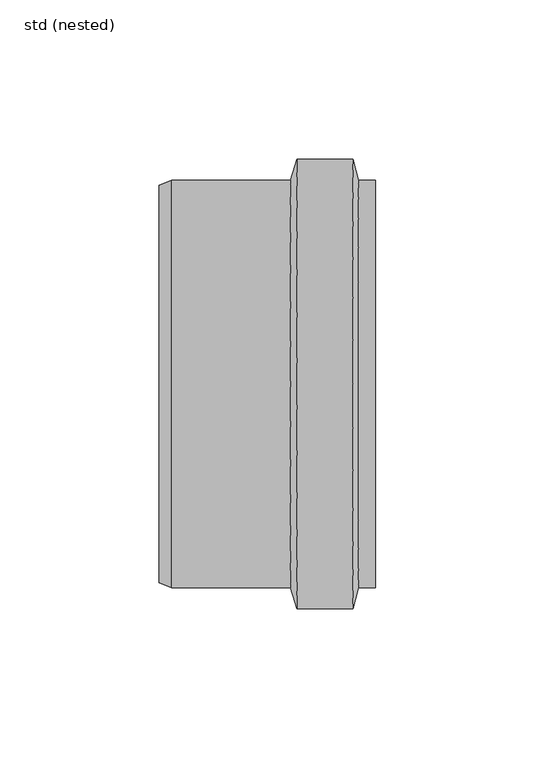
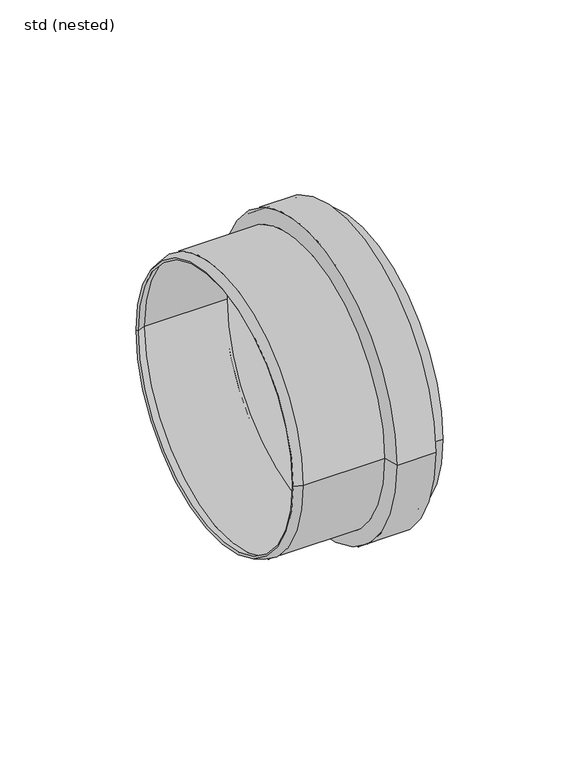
"""IFC4 building model written with IfcOpenShell, lengths in millimetres: pipe fitting geometry, ZZZ_do not use_PIF_ST_UN_ACO pipe socket_ACO : std (nested)."""

import ifcopenshell
import ifcopenshell.guid

model = None  # the IFC model being written
_history = None  # IfcOwnerHistory: only IFC2X3 demands one
_inside = {}  # id of a spatial element -> (the spatial element, [elements in it])
_under = {}  # id of a project, library or spatial element -> (it, [spatial elements below it])
_declared = {}  # id of a project -> (the project, [libraries it declares])
_typed = {}  # id of a type object -> (the type object, [elements of that type])
_made_of = {}  # id of a material, layer set ... -> (it, [elements and type objects made of it])


def new_model(schema):
    """Start an empty IFC model of exactly this schema.

    Asked for "IFC4X3", IfcOpenShell would pick the latest addendum, in which some entities
    have other attributes; the version numbers below select the first issue.
    IFC2X3 requires an IfcOwnerHistory on every rooted entity: one is made here for all.
    """
    global model, _history
    if schema == "IFC4X3":
        model = ifcopenshell.file(schema_version=(4, 3, 0, 0))
    else:
        model = ifcopenshell.file(schema=schema)
    _inside.clear()
    _under.clear()
    _declared.clear()
    _typed.clear()
    _made_of.clear()
    _history = None
    if model.schema == "IFC2X3":
        org = make("IfcOrganization", Name="unknown")
        user = make(
            "IfcPersonAndOrganization",
            ThePerson=make("IfcPerson", FamilyName="unknown"),
            TheOrganization=org,
        )
        app = make(
            "IfcApplication",
            ApplicationDeveloper=org,
            Version="unknown",
            ApplicationFullName="unknown",
            ApplicationIdentifier="unknown",
        )
        _history = make(
            "IfcOwnerHistory",
            OwningUser=user,
            OwningApplication=app,
            ChangeAction="ADDED",
            CreationDate=0,
        )
    return model


def make(cls, **values):
    """One entity of the class cls with the attributes given. An attribute that is None is left unset."""
    return model.create_entity(
        cls, **{name: value for name, value in values.items() if value is not None}
    )


def rooted(cls, **values):
    """An entity with a GlobalId (a new one), such as an element, a storey or a relation."""
    return make(cls, GlobalId=ifcopenshell.guid.new(), OwnerHistory=_history, **values)


def si_unit(unit_type, name, prefix=None):
    """IfcSIUnit, for example si_unit("LENGTHUNIT", "METRE", prefix="MILLI")."""
    return make("IfcSIUnit", UnitType=unit_type, Prefix=prefix, Name=name)


def assignment(units):
    """IfcUnitAssignment: the units of a project."""
    return None if units is None else make("IfcUnitAssignment", Units=units)


def point(xyz):
    """IfcCartesianPoint."""
    return None if xyz is None else make("IfcCartesianPoint", Coordinates=xyz)


def direction(xyz):
    """IfcDirection."""
    return None if xyz is None else make("IfcDirection", DirectionRatios=xyz)


def frame(location, z_axis=None, x_axis=None):
    """IfcAxis2Placement3D, a coordinate frame: its origin and axes. An axis left out is left unset."""
    return make(
        "IfcAxis2Placement3D",
        Location=point(location),
        Axis=direction(z_axis),
        RefDirection=direction(x_axis),
    )


def origin():
    """The frame at (0, 0, 0) with its axes left unset."""
    return frame((0.0, 0.0, 0.0))


def place(relative_to, where):
    """IfcLocalPlacement: puts the frame where relative to a parent placement (None: the world)."""
    return make(
        "IfcLocalPlacement", PlacementRelTo=relative_to, RelativePlacement=where
    )


def context(
    kind, dimensions, precision=None, world=None, true_north=None, identifier=None
):
    """IfcGeometricRepresentationContext, for example the 3D "Model" context."""
    return make(
        "IfcGeometricRepresentationContext",
        ContextIdentifier=identifier,
        ContextType=kind,
        CoordinateSpaceDimension=dimensions,
        Precision=precision,
        WorldCoordinateSystem=world,
        TrueNorth=true_north,
    )


def project(units=None, contexts=None):
    """IfcProject with its units and contexts."""
    return rooted(
        "IfcProject",
        Name="project",
        RepresentationContexts=contexts,
        UnitsInContext=assignment(units),
    )


def spatial(cls, under=None, at=None, **own):
    """A site, building, storey or space (cls), placed at a placement, below another one or the project."""
    s = rooted(cls, ObjectPlacement=at, **own)
    if under is not None:
        _under.setdefault(under.id(), (under, []))[1].append(s)
    return s


def polyline(points):
    """IfcPolyline through the points."""
    return make("IfcPolyline", Points=[point(p) for p in points])


def circle_curve(where, radius):
    """IfcCircle in the frame where."""
    return make("IfcCircle", Position=where, Radius=radius)


def shape(context_of_items, identifier, shape_type, items):
    """IfcShapeRepresentation: the items that make up one representation, for example the "Body"."""
    return make(
        "IfcShapeRepresentation",
        ContextOfItems=context_of_items,
        RepresentationIdentifier=identifier,
        RepresentationType=shape_type,
        Items=items,
    )


def source(mapping_origin, context_of_items, identifier, shape_type, items):
    """IfcRepresentationMap: a shape defined once, which mapped items show again and again."""
    return make(
        "IfcRepresentationMap",
        MappingOrigin=mapping_origin,
        MappedRepresentation=shape(context_of_items, identifier, shape_type, items),
    )


def transform(
    local_origin,
    x_axis=None,
    y_axis=None,
    z_axis=None,
    scale=None,
    scale2=None,
    scale3=None,
    uniform=True,
):
    """IfcCartesianTransformationOperator3D, or its non-uniform kind. x_axis, y_axis, z_axis: its Axis1, 2, 3."""
    if uniform:
        return make(
            "IfcCartesianTransformationOperator3D",
            Axis1=direction(x_axis),
            Axis2=direction(y_axis),
            LocalOrigin=point(local_origin),
            Scale=scale,
            Axis3=direction(z_axis),
        )
    return make(
        "IfcCartesianTransformationOperator3DnonUniform",
        Axis1=direction(x_axis),
        Axis2=direction(y_axis),
        LocalOrigin=point(local_origin),
        Scale=scale,
        Axis3=direction(z_axis),
        Scale2=scale2,
        Scale3=scale3,
    )


def mapped(mapping_source, mapping_target):
    """IfcMappedItem: shows the shape of a source again, moved by a transform."""
    return make(
        "IfcMappedItem", MappingSource=mapping_source, MappingTarget=mapping_target
    )


def made_of(thing, what):
    """Note that an element or type object is made of a material, layer set ...; save() writes the relation."""
    if what is not None:
        _made_of.setdefault(what.id(), (what, []))[1].append(thing)
    return thing


def element(
    cls,
    number,
    at=None,
    inside=None,
    cuts=None,
    type_object=None,
    material=None,
    context=None,
    identifier="Body",
    shape_type=None,
    held_by="IfcProductDefinitionShape",
    body=None,
    shapes=None,
    **own,
):
    """One element of the class cls, such as IfcWall. Its Tag is "e" and its number.

    at: its placement. inside: the storey or other place that contains it. cuts: it is an
    opening in that element (IfcRelVoidsElement). A single representation is given by context,
    identifier, shape_type and body (its items); several are given by shapes. held_by: the class
    of the entity that holds the representations. save() writes the other relations.
    """
    e = rooted(cls, Tag="e%d" % number, ObjectPlacement=at, **own)
    if body is not None:
        shapes = [shape(context, identifier, shape_type, body)]
    if shapes is not None:
        e.Representation = make(held_by, Representations=shapes)
    if inside is not None:
        _inside.setdefault(inside.id(), (inside, []))[1].append(e)
    if cuts is not None:
        rooted(
            "IfcRelVoidsElement", RelatingBuildingElement=cuts, RelatedOpeningElement=e
        )
    if type_object is not None:
        _typed.setdefault(type_object.id(), (type_object, []))[1].append(e)
    return made_of(e, material)


def aggregate(whole, parts):
    """IfcRelAggregates: a whole, such as a stair, and the parts it consists of."""
    return rooted("IfcRelAggregates", RelatingObject=whole, RelatedObjects=parts)


def save(model, path):
    """Write the relations noted so far, then the file.

    IfcRelAggregates (storeys below a building ...), IfcRelContainedInSpatialStructure (elements
    in a storey), IfcRelDefinesByType, IfcRelAssociatesMaterial and IfcRelDeclares: one each for
    every whole, place, type object, material and project.
    """
    for whole, parts in _under.values():
        aggregate(whole, parts)
    for where, things in _inside.values():
        rooted(
            "IfcRelContainedInSpatialStructure",
            RelatedElements=things,
            RelatingStructure=where,
        )
    for kind, things in _typed.values():
        rooted("IfcRelDefinesByType", RelatedObjects=things, RelatingType=kind)
    for what, things in _made_of.values():
        rooted("IfcRelAssociatesMaterial", RelatedObjects=things, RelatingMaterial=what)
    for by, libraries in _declared.values():
        rooted("IfcRelDeclares", RelatingContext=by, RelatedDefinitions=libraries)
    model.write(path)


def plane_surface(at):
    """IfcPlane: the flat surface through the origin of the frame at, square to its z axis."""
    return make("IfcPlane", Position=at)


def cylinder_surface(at, radius):
    """IfcCylindricalSurface: all points at the distance radius from the z axis of the frame at."""
    return make("IfcCylindricalSurface", Position=at, Radius=radius)


def revolved_surface(curve, axis_point, axis_direction):
    """IfcSurfaceOfRevolution: the curve turned about the line through axis_point along axis_direction."""
    return make(
        "IfcSurfaceOfRevolution",
        SweptCurve=make("IfcArbitraryOpenProfileDef", ProfileType="CURVE", Curve=curve),
        AxisPosition=make("IfcAxis1Placement", Location=point(axis_point), Axis=direction(axis_direction)),
    )


def advanced_brep(points, edges, surfaces, faces):
    """IfcAdvancedBrep: a solid bounded by faces that lie on surfaces and meet in shared edges.

    An edge is (start, end): straight between two places in points (the first is 0);
    or (start, end, curve); or (start, end, curve, False) where it runs against its curve.
    A face is (place in surfaces, loops), or (place, loops, False) where it looks against
    its surface's normal. A loop lists edges by number (the first is 1), with a minus sign
    where the edge is run from its end to its start. The first loop is the outer one.
    """
    corners = [point(p) for p in points]
    vertices = [make("IfcVertexPoint", VertexGeometry=c) for c in corners]
    made = []
    for start, end, *more in edges:
        made.append(
            make(
                "IfcEdgeCurve",
                EdgeStart=vertices[start],
                EdgeEnd=vertices[end],
                EdgeGeometry=more[0] if more else make("IfcPolyline", Points=[corners[start], corners[end]]),
                SameSense=more[1] if len(more) > 1 else True,
            )
        )
    hull = []
    for where, loops, *sense in faces:
        bounds = []
        for j, loop in enumerate(loops):
            ring = [make("IfcOrientedEdge", EdgeElement=made[abs(k) - 1], Orientation=k > 0) for k in loop]
            bounds.append(
                make(
                    "IfcFaceOuterBound" if j == 0 else "IfcFaceBound",
                    Bound=make("IfcEdgeLoop", EdgeList=ring),
                    Orientation=True,
                )
            )
        hull.append(make("IfcAdvancedFace", Bounds=bounds, FaceSurface=surfaces[where], SameSense=sense[0] if sense else True))
    return make("IfcAdvancedBrep", Outer=make("IfcClosedShell", CfsFaces=hull))


def std_nested_0eafc151(model_context):
    return source(origin(), model_context, "Body", "AdvancedBrep", [
        advanced_brep(
        [(63.0, -63.0, 0.0), (63.0, 63.0, 0.0), (56.9, 63.0, 0.0), (56.9, -63.0, 0.0), (63.0, -64.0, 0.0), (63.0, 64.0, 0.0), (57.6607119, -64.0, 0.0), (57.6607119, 64.0, 0.0), (55.8607119, -70.5, 0.0), (55.8607119, 70.5, 0.0), (38.2504614, -70.5, 0.0), (38.2504614, 70.5, 0.0), (36.3504614, -64.0, 0.0), (36.3504614, 64.0, 0.0), (-0.9902264, -64.0, 0.0), (-0.9902264, 64.0, 0.0), (-4.9671665, -62.4301552, 0.0), (-4.9671665, 62.4301552, 0.0), (-4.6, -61.5, 0.0), (-4.6, 61.5, 0.0), (-0.8, -63.0, 0.0), (-0.8, 63.0, 0.0), (37.1, -63.0, 0.0), (37.1, 63.0, 0.0), (39.0, -69.5, 0.0), (39.0, 69.5, 0.0), (55.1, -69.5, 0.0), (55.1, 69.5, 0.0)],
        [
            (0, 1, circle_curve(frame((63.0, 0.0, 0.0), z_axis=(1.0, 0.0, 0.0), x_axis=(0.0, 1.0, 0.0)), 63.0)),
            (1, 2),
            (2, 3, circle_curve(frame((56.9, 0.0, 0.0), z_axis=(-1.0, 0.0, 0.0), x_axis=(0.0, 1.0, 0.0)), 63.0)),
            (3, 0),
            (1, 0, circle_curve(frame((63.0, 0.0, 0.0), z_axis=(1.0, 0.0, 0.0), x_axis=(0.0, 1.0, 0.0)), 63.0)),
            (3, 2, circle_curve(frame((56.9, 0.0, 0.0), z_axis=(-1.0, 0.0, 0.0), x_axis=(0.0, 1.0, 0.0)), 63.0)),
            (4, 5, circle_curve(frame((63.0, 0.0, 0.0), z_axis=(1.0, 0.0, 0.0), x_axis=(0.0, 1.0, 0.0)), 64.0)),
            (5, 1),
            (0, 4),
            (5, 4, circle_curve(frame((63.0, 0.0, 0.0), z_axis=(1.0, 0.0, 0.0), x_axis=(0.0, 1.0, 0.0)), 64.0)),
            (6, 7, circle_curve(frame((57.6607119, 0.0, 0.0), z_axis=(1.0, 0.0, 0.0), x_axis=(0.0, 1.0, 0.0)), 64.0)),
            (7, 5),
            (4, 6),
            (7, 6, circle_curve(frame((57.6607119, 0.0, 0.0), z_axis=(1.0, 0.0, 0.0), x_axis=(0.0, 1.0, 0.0)), 64.0)),
            (8, 9, circle_curve(frame((55.8607119, 0.0, 0.0), z_axis=(1.0, 0.0, 0.0), x_axis=(0.0, 1.0, 0.0)), 70.5)),
            (9, 7),
            (6, 8),
            (9, 8, circle_curve(frame((55.8607119, 0.0, 0.0), z_axis=(1.0, 0.0, 0.0), x_axis=(0.0, 1.0, 0.0)), 70.5)),
            (10, 11, circle_curve(frame((38.2504614, 0.0, 0.0), z_axis=(1.0, 0.0, 0.0), x_axis=(0.0, 1.0, 0.0)), 70.5)),
            (11, 9),
            (8, 10),
            (11, 10, circle_curve(frame((38.2504614, 0.0, 0.0), z_axis=(1.0, 0.0, 0.0), x_axis=(0.0, 1.0, 0.0)), 70.5)),
            (12, 13, circle_curve(frame((36.3504614, 0.0, 0.0), z_axis=(1.0, 0.0, 0.0), x_axis=(0.0, 1.0, 0.0)), 64.0)),
            (13, 11),
            (10, 12),
            (13, 12, circle_curve(frame((36.3504614, 0.0, 0.0), z_axis=(1.0, 0.0, 0.0), x_axis=(0.0, 1.0, 0.0)), 64.0)),
            (14, 15, circle_curve(frame((-0.9902264, 0.0, 0.0), z_axis=(1.0, 0.0, 0.0), x_axis=(0.0, 1.0, 0.0)), 64.0)),
            (15, 13),
            (12, 14),
            (15, 14, circle_curve(frame((-0.9902264, 0.0, 0.0), z_axis=(1.0, 0.0, 0.0), x_axis=(0.0, 1.0, 0.0)), 64.0)),
            (16, 17, circle_curve(frame((-4.9671665, 0.0, 0.0), z_axis=(1.0, 0.0, 0.0), x_axis=(0.0, 1.0, 0.0)), 62.4301552)),
            (17, 15),
            (14, 16),
            (17, 16, circle_curve(frame((-4.9671665, 0.0, 0.0), z_axis=(1.0, 0.0, 0.0), x_axis=(0.0, 1.0, 0.0)), 62.4301552)),
            (18, 19, circle_curve(frame((-4.6, 0.0, 0.0), z_axis=(1.0, 0.0, 0.0), x_axis=(0.0, 1.0, 0.0)), 61.5)),
            (19, 17),
            (16, 18),
            (19, 18, circle_curve(frame((-4.6, 0.0, 0.0), z_axis=(1.0, 0.0, 0.0), x_axis=(0.0, 1.0, 0.0)), 61.5)),
            (20, 21, circle_curve(frame((-0.8, 0.0, 0.0), z_axis=(1.0, 0.0, 0.0), x_axis=(0.0, 1.0, 0.0)), 63.0)),
            (21, 19),
            (18, 20),
            (21, 20, circle_curve(frame((-0.8, 0.0, 0.0), z_axis=(1.0, 0.0, 0.0), x_axis=(0.0, 1.0, 0.0)), 63.0)),
            (22, 23, circle_curve(frame((37.1, 0.0, 0.0), z_axis=(1.0, 0.0, 0.0), x_axis=(0.0, 1.0, 0.0)), 63.0)),
            (23, 21),
            (20, 22),
            (23, 22, circle_curve(frame((37.1, 0.0, 0.0), z_axis=(1.0, 0.0, 0.0), x_axis=(0.0, 1.0, 0.0)), 63.0)),
            (24, 25, circle_curve(frame((39.0, 0.0, 0.0), z_axis=(1.0, 0.0, 0.0), x_axis=(0.0, 1.0, 0.0)), 69.5)),
            (25, 23),
            (22, 24),
            (25, 24, circle_curve(frame((39.0, 0.0, 0.0), z_axis=(1.0, 0.0, 0.0), x_axis=(0.0, 1.0, 0.0)), 69.5)),
            (26, 27, circle_curve(frame((55.1, 0.0, 0.0), z_axis=(1.0, 0.0, 0.0), x_axis=(0.0, 1.0, 0.0)), 69.5)),
            (27, 25),
            (24, 26),
            (27, 26, circle_curve(frame((55.1, 0.0, 0.0), z_axis=(1.0, 0.0, 0.0), x_axis=(0.0, 1.0, 0.0)), 69.5)),
            (2, 27),
            (26, 3),
        ],
        [
            revolved_surface(polyline([(56.900000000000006, 63.0, 0.0), (63.0, 63.0, 0.0)]), (-17.068946, 0.0, 0.0), (-1.0, 0.0, 0.0)),
            plane_surface(frame((63.0, 0.0, 0.0), z_axis=(1.0, 0.0, 0.0), x_axis=(0.0, 1.0, 0.0))),
            cylinder_surface(frame((-17.068946, 0.0, 0.0), z_axis=(-1.0, 0.0, 0.0), x_axis=(0.0, 1.0, 0.0)), 64.0),
            revolved_surface(polyline([(57.6607119, 64.0, 0.0), (55.8607119, 70.5, 0.0)]), (-17.068946, 0.0, 0.0), (-1.0, 0.0, 0.0)),
            cylinder_surface(frame((-17.068946, 0.0, 0.0), z_axis=(-1.0, 0.0, 0.0), x_axis=(0.0, 1.0, 0.0)), 70.5),
            revolved_surface(polyline([(38.2504614, 70.5, 0.0), (36.3504614, 64.0, 0.0)]), (-17.068946, 0.0, 0.0), (-1.0, 0.0, 0.0)),
            revolved_surface(polyline([(-0.9902264, 64.0, 0.0), (-4.9671665, 62.4301552, 0.0)]), (-17.068946, 0.0, 0.0), (-1.0, 0.0, 0.0)),
            revolved_surface(polyline([(-4.9671665, 62.4301552, 0.0), (-4.6, 61.5, 0.0)]), (-17.068946, 0.0, 0.0), (-1.0, 0.0, 0.0)),
            revolved_surface(polyline([(-4.6, 61.5, 0.0), (-0.8, 63.0, 0.0)]), (-17.068946, 0.0, 0.0), (-1.0, 0.0, 0.0)),
            revolved_surface(polyline([(-0.8000000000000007, 63.0, 0.0), (37.10000000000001, 63.0, 0.0)]), (-17.068946, 0.0, 0.0), (-1.0, 0.0, 0.0)),
            revolved_surface(polyline([(37.1, 63.0, 0.0), (39.0, 69.5, 0.0)]), (-17.068946, 0.0, 0.0), (-1.0, 0.0, 0.0)),
            revolved_surface(polyline([(39.0, 69.5, 0.0), (55.10000000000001, 69.5, 0.0)]), (-17.068946, 0.0, 0.0), (-1.0, 0.0, 0.0)),
            revolved_surface(polyline([(55.1, 69.5, 0.0), (56.9, 63.0, 0.0)]), (-17.068946, 0.0, 0.0), (-1.0, 0.0, 0.0)),
        ],
        [
            (0, [[1, 2, 3, 4]]),
            (0, [[5, -4, 6, -2]]),
            (1, [[7, 8, -1, 9]]),
            (1, [[10, -9, -5, -8]]),
            (2, [[11, 12, -7, 13]]),
            (2, [[14, -13, -10, -12]]),
            (3, [[15, 16, -11, 17]]),
            (3, [[18, -17, -14, -16]]),
            (4, [[19, 20, -15, 21]]),
            (4, [[22, -21, -18, -20]]),
            (5, [[23, 24, -19, 25]]),
            (5, [[26, -25, -22, -24]]),
            (2, [[27, 28, -23, 29]]),
            (2, [[30, -29, -26, -28]]),
            (6, [[31, 32, -27, 33]]),
            (6, [[34, -33, -30, -32]]),
            (7, [[35, 36, -31, 37]]),
            (7, [[38, -37, -34, -36]]),
            (8, [[39, 40, -35, 41]]),
            (8, [[42, -41, -38, -40]]),
            (9, [[43, 44, -39, 45]]),
            (9, [[46, -45, -42, -44]]),
            (10, [[47, 48, -43, 49]]),
            (10, [[50, -49, -46, -48]]),
            (11, [[51, 52, -47, 53]]),
            (11, [[54, -53, -50, -52]]),
            (12, [[-3, 55, -51, 56]]),
            (12, [[-6, -56, -54, -55]]),
        ],
    ),
    ])


if __name__ == "__main__":
    model = new_model("IFC4")
    model_context = context("Model", 3, world=origin())
    ifc_project = project(units=[si_unit("LENGTHUNIT", "METRE", prefix="MILLI")], contexts=[model_context])
    site = spatial("IfcSite", under=ifc_project)
    building = spatial("IfcBuilding", under=site)
    placement = place(None, origin())
    std_nested_shape = std_nested_0eafc151(model_context)
    element("IfcPipeFitting", 1, ObjectType="ZZZ_do not use_PIF_ST_UN_ACO pipe socket_ACO : std (nested)", at=placement, inside=building, context=model_context, shape_type="MappedRepresentation", body=[
        mapped(std_nested_shape, transform((0.0, 0.0, 0.0), x_axis=(1.0, 0.0, 0.0), y_axis=(0.0, 1.0, 0.0), z_axis=(0.0, 0.0, 1.0))),
    ])
    save(model, "model.ifc")
